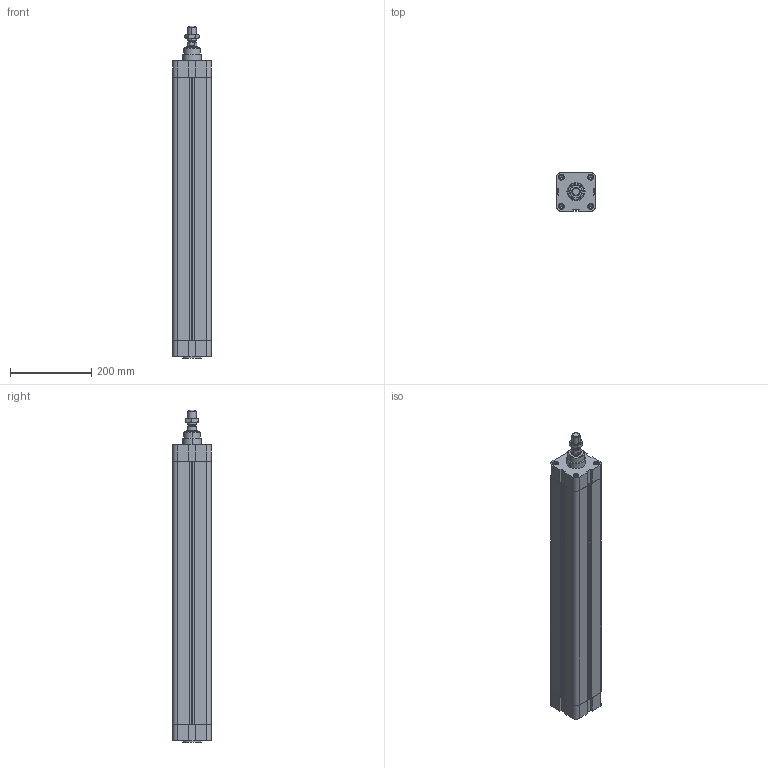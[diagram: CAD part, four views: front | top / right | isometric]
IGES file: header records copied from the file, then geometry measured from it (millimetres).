
Global section: file name: No Iges File Name specified; native system: Autodesk Inventor 2010; preprocessor: AutoDesk Inventor Iges Exporter R2010; author: rivolro1; date: 20090707.103507; units: millimetre
Bounding box: 95.5 x 95.5 x 818 mm (x, y, z)
Volume: 3761719.6 mm3; surface area: 618012.6 mm2
Topology: 5 solids, 5 shells, 290 faces, 694 edges, 440 vertices
Faces by surface type: plane 120, bspline 74, cylinder 40, revolution 34, cone 20, torus 2
